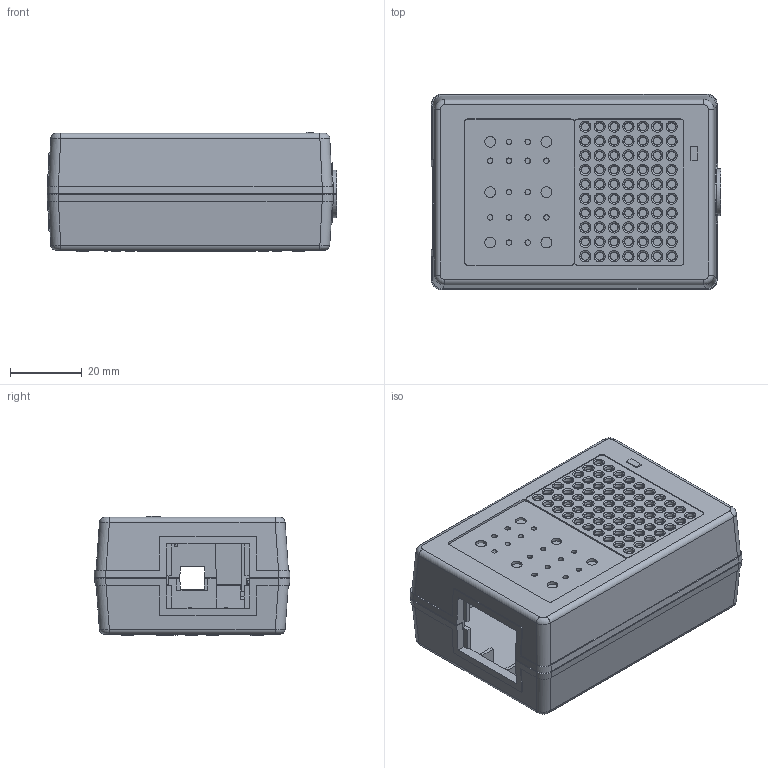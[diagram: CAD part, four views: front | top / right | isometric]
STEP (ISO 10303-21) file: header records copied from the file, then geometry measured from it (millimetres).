
FILE_DESCRIPTION(('Creo Elements/Direct Modeling STEP Export'),'2;1');
FILE_NAME('B-TYPE.stp','2015-05-12T17:02:24',(''),(''),'PTC Creo Elements/Direct Modeling STEP processor for AP214 (Solid Model)','PTC Creo Elements/Direct Modeling 19.0 09-May-2014 (C) Parametric Technology GmbH','');
FILE_SCHEMA(('AUTOMOTIVE_DESIGN { 1 0 10303 214 1 1 1 1 }'));
Length unit declared in the file: millimetre
Products named in the file (11): ADMI8C23VX21_4.PRT; ADMI8C23VX21_3.PRT; ADMI8C23VX21.ASM; 無散熱片; p1; ADMI1F2EVRF4_2.PRT; B-MODEL.stp.1; ADMI8C23VX21_2.PRT
Assembly tree (7 placements, depth 3):
  無散熱片
    ADMI8C23VX21.ASM
      ADMI8C23VX21_3.PRT
      ADMI8C23VX21_4.PRT
  p1
  B-MODEL.stp.1
    ADMI1F2EVRF4_2.PRT
    ADMI8C23VX21.ASM
      ADMI8C23VX21_3.PRT
      ADMI8C23VX21_4.PRT
  ADMI8C23VX21_2.PRT
Bounding box: 80.55 x 54.45 x 33.19 mm (x, y, z)
Volume: 59376.5 mm3; surface area: 56185.7 mm2
Topology: 6 solids, 6 shells, 2310 faces, 6013 edges, 4024 vertices
Faces by surface type: plane 752, extrusion 475, cylinder 433, cone 344, torus 306
Entity records: 85090 total; most frequent: CARTESIAN_POINT 18438, ORIENTED_EDGE 12026, DIRECTION 9637, EDGE_CURVE 6013, VERTEX_POINT 4024, AXIS2_PLACEMENT_3D 3324, VECTOR 2989, EDGE_LOOP 2687
